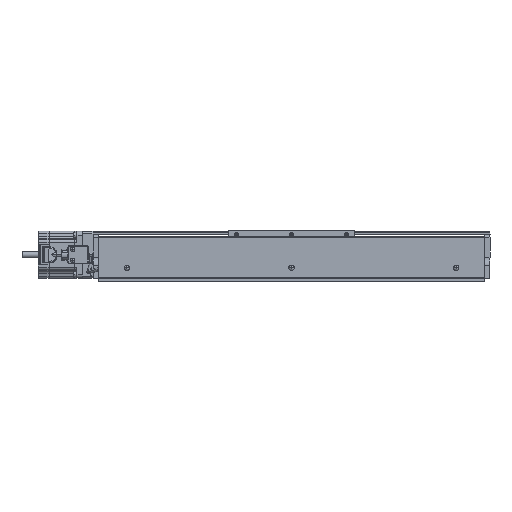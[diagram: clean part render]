
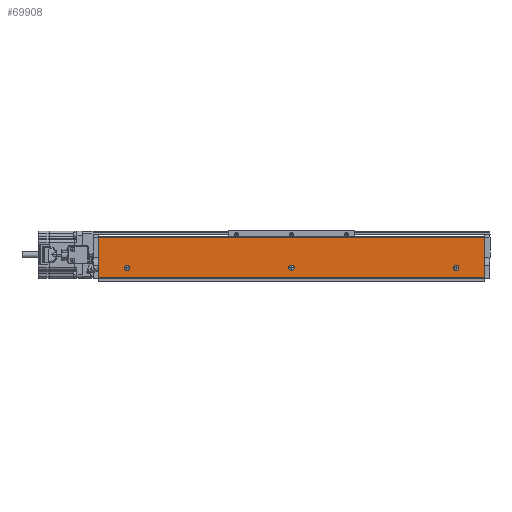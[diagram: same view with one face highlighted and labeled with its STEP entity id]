
A CAD part, front view. The second image highlights one B-rep face of the part: STEP entity #69908.
In plain terms, the highlighted planar face has unit normal (0, -1, 0).
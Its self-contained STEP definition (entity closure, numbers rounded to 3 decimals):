
#1095 = FACE_OUTER_BOUND ( 'NONE', #12659, .T. ) ;
#1206 = CARTESIAN_POINT ( 'NONE',  ( 98.875, -248.125, -624.664 ) ) ;
#1682 = DIRECTION ( 'NONE',  ( 0., -1., 0. ) ) ;
#2117 = AXIS2_PLACEMENT_3D ( 'NONE', #21874, #46197, #27967 ) ;
#2295 = VECTOR ( 'NONE', #58843, 1000. ) ;
#3080 = CIRCLE ( 'NONE', #45173, 3.45 ) ;
#3145 = VERTEX_POINT ( 'NONE', #67881 ) ;
#3465 = ORIENTED_EDGE ( 'NONE', *, *, #28345, .F. ) ;
#3893 = ORIENTED_EDGE ( 'NONE', *, *, #59632, .F. ) ;
#4563 = DIRECTION ( 'NONE',  ( 1., 0., 0. ) ) ;
#4581 = CARTESIAN_POINT ( 'NONE',  ( -393.125, -248.125, -625.664 ) ) ;
#4987 = CARTESIAN_POINT ( 'NONE',  ( -353.675, -248.125, -664.164 ) ) ;
#6062 = VERTEX_POINT ( 'NONE', #32870 ) ;
#6173 = LINE ( 'NONE', #40629, #2295 ) ;
#6622 = VERTEX_POINT ( 'NONE', #9357 ) ;
#9357 = CARTESIAN_POINT ( 'NONE',  ( -143.675, -248.125, -664.164 ) ) ;
#10476 = CIRCLE ( 'NONE', #11949, 3.45 ) ;
#11563 = VECTOR ( 'NONE', #73868, 1000. ) ;
#11801 = ORIENTED_EDGE ( 'NONE', *, *, #12701, .F. ) ;
#11949 = AXIS2_PLACEMENT_3D ( 'NONE', #37412, #55355, #25150 ) ;
#12659 = EDGE_LOOP ( 'NONE', ( #61582, #34143, #50003, #33558 ) ) ;
#12701 = EDGE_CURVE ( 'NONE', #6062, #75012, #72119, .T. ) ;
#15864 = VERTEX_POINT ( 'NONE', #21289 ) ;
#16137 = EDGE_CURVE ( 'NONE', #37164, #6622, #27991, .T. ) ;
#18190 = CIRCLE ( 'NONE', #34990, 3.45 ) ;
#20248 = VERTEX_POINT ( 'NONE', #4987 ) ;
#20843 = EDGE_LOOP ( 'NONE', ( #3893, #67301 ) ) ;
#21289 = CARTESIAN_POINT ( 'NONE',  ( -360.575, -248.125, -664.164 ) ) ;
#21874 = CARTESIAN_POINT ( 'NONE',  ( -357.125, -248.125, -664.164 ) ) ;
#24796 = EDGE_CURVE ( 'NONE', #6622, #37164, #3080, .T. ) ;
#25150 = DIRECTION ( 'NONE',  ( 1., 0., 0. ) ) ;
#25608 = VERTEX_POINT ( 'NONE', #39719 ) ;
#27469 = VERTEX_POINT ( 'NONE', #40768 ) ;
#27967 = DIRECTION ( 'NONE',  ( 1., 0., 0. ) ) ;
#27991 = CIRCLE ( 'NONE', #59131, 3.45 ) ;
#28345 = EDGE_CURVE ( 'NONE', #75012, #6062, #10476, .T. ) ;
#32654 = EDGE_CURVE ( 'NONE', #27469, #25608, #38163, .T. ) ;
#32870 = CARTESIAN_POINT ( 'NONE',  ( 66.325, -248.125, -664.164 ) ) ;
#33558 = ORIENTED_EDGE ( 'NONE', *, *, #58135, .T. ) ;
#33893 = ORIENTED_EDGE ( 'NONE', *, *, #24796, .F. ) ;
#34143 = ORIENTED_EDGE ( 'NONE', *, *, #57094, .T. ) ;
#34990 = AXIS2_PLACEMENT_3D ( 'NONE', #78532, #41035, #4563 ) ;
#35636 = FACE_BOUND ( 'NONE', #71599, .T. ) ;
#37164 = VERTEX_POINT ( 'NONE', #63212 ) ;
#37412 = CARTESIAN_POINT ( 'NONE',  ( 62.875, -248.125, -664.164 ) ) ;
#37518 = DIRECTION ( 'NONE',  ( 1., 0., 0. ) ) ;
#38163 = LINE ( 'NONE', #54708, #71704 ) ;
#38252 = CARTESIAN_POINT ( 'NONE',  ( -147.125, -248.125, -664.164 ) ) ;
#39719 = CARTESIAN_POINT ( 'NONE',  ( -393.125, -248.125, -676.664 ) ) ;
#40128 = CARTESIAN_POINT ( 'NONE',  ( 98.875, -248.125, -625.664 ) ) ;
#40629 = CARTESIAN_POINT ( 'NONE',  ( -393.125, -248.125, -676.664 ) ) ;
#40768 = CARTESIAN_POINT ( 'NONE',  ( -393.125, -248.125, -625.664 ) ) ;
#41035 = DIRECTION ( 'NONE',  ( 0., -1., 0. ) ) ;
#41787 = VERTEX_POINT ( 'NONE', #40128 ) ;
#44978 = PLANE ( 'NONE',  #68444 ) ;
#45173 = AXIS2_PLACEMENT_3D ( 'NONE', #38252, #50286, #56461 ) ;
#46197 = DIRECTION ( 'NONE',  ( 0., -1., 0. ) ) ;
#50003 = ORIENTED_EDGE ( 'NONE', *, *, #32654, .T. ) ;
#50286 = DIRECTION ( 'NONE',  ( 0., -1., 0. ) ) ;
#50652 = EDGE_CURVE ( 'NONE', #41787, #3145, #66251, .T. ) ;
#54708 = CARTESIAN_POINT ( 'NONE',  ( -393.125, -248.125, -624.664 ) ) ;
#55355 = DIRECTION ( 'NONE',  ( 0., -1., 0. ) ) ;
#55506 = DIRECTION ( 'NONE',  ( 0., 0., -1. ) ) ;
#56461 = DIRECTION ( 'NONE',  ( 1., 0., 0. ) ) ;
#56899 = CARTESIAN_POINT ( 'NONE',  ( 62.875, -248.125, -664.164 ) ) ;
#57094 = EDGE_CURVE ( 'NONE', #41787, #27469, #65776, .T. ) ;
#58092 = ORIENTED_EDGE ( 'NONE', *, *, #16137, .F. ) ;
#58135 = EDGE_CURVE ( 'NONE', #25608, #3145, #6173, .T. ) ;
#58843 = DIRECTION ( 'NONE',  ( 1., 0., 0. ) ) ;
#59131 = AXIS2_PLACEMENT_3D ( 'NONE', #61622, #67040, #37518 ) ;
#59632 = EDGE_CURVE ( 'NONE', #20248, #15864, #18190, .T. ) ;
#60050 = DIRECTION ( 'NONE',  ( -1., 0., 0. ) ) ;
#61582 = ORIENTED_EDGE ( 'NONE', *, *, #50652, .F. ) ;
#61622 = CARTESIAN_POINT ( 'NONE',  ( -147.125, -248.125, -664.164 ) ) ;
#62265 = DIRECTION ( 'NONE',  ( 1., 0., 0. ) ) ;
#63180 = CARTESIAN_POINT ( 'NONE',  ( -393.125, -248.125, -624.664 ) ) ;
#63212 = CARTESIAN_POINT ( 'NONE',  ( -150.575, -248.125, -664.164 ) ) ;
#65608 = AXIS2_PLACEMENT_3D ( 'NONE', #56899, #1682, #62265 ) ;
#65776 = LINE ( 'NONE', #4581, #73459 ) ;
#66251 = LINE ( 'NONE', #1206, #11563 ) ;
#67040 = DIRECTION ( 'NONE',  ( 0., -1., 0. ) ) ;
#67301 = ORIENTED_EDGE ( 'NONE', *, *, #67805, .F. ) ;
#67805 = EDGE_CURVE ( 'NONE', #15864, #20248, #69598, .T. ) ;
#67881 = CARTESIAN_POINT ( 'NONE',  ( 98.875, -248.125, -676.664 ) ) ;
#68444 = AXIS2_PLACEMENT_3D ( 'NONE', #63180, #69628, #75525 ) ;
#69598 = CIRCLE ( 'NONE', #2117, 3.45 ) ;
#69628 = DIRECTION ( 'NONE',  ( 0., -1., 0. ) ) ;
#69897 = CARTESIAN_POINT ( 'NONE',  ( 59.425, -248.125, -664.164 ) ) ;
#69908 = ADVANCED_FACE ( 'NONE', ( #72108, #35636, #71129, #1095 ), #44978, .T. ) ;
#70530 = EDGE_LOOP ( 'NONE', ( #11801, #3465 ) ) ;
#71129 = FACE_BOUND ( 'NONE', #70530, .T. ) ;
#71599 = EDGE_LOOP ( 'NONE', ( #33893, #58092 ) ) ;
#71704 = VECTOR ( 'NONE', #55506, 1000. ) ;
#72108 = FACE_BOUND ( 'NONE', #20843, .T. ) ;
#72119 = CIRCLE ( 'NONE', #65608, 3.45 ) ;
#73459 = VECTOR ( 'NONE', #60050, 1000. ) ;
#73868 = DIRECTION ( 'NONE',  ( 0., 0., -1. ) ) ;
#75012 = VERTEX_POINT ( 'NONE', #69897 ) ;
#75525 = DIRECTION ( 'NONE',  ( 0., 0., -1. ) ) ;
#78532 = CARTESIAN_POINT ( 'NONE',  ( -357.125, -248.125, -664.164 ) ) ;
